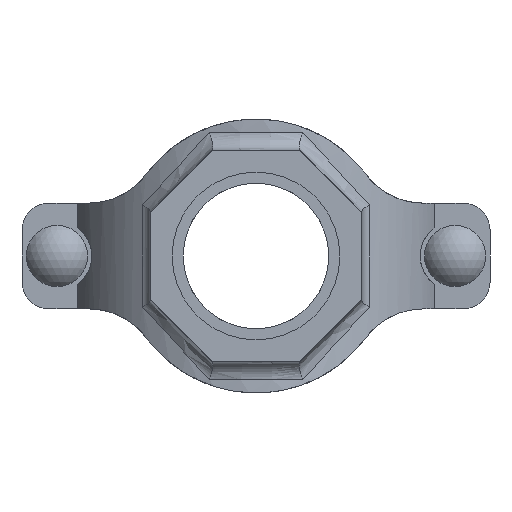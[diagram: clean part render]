
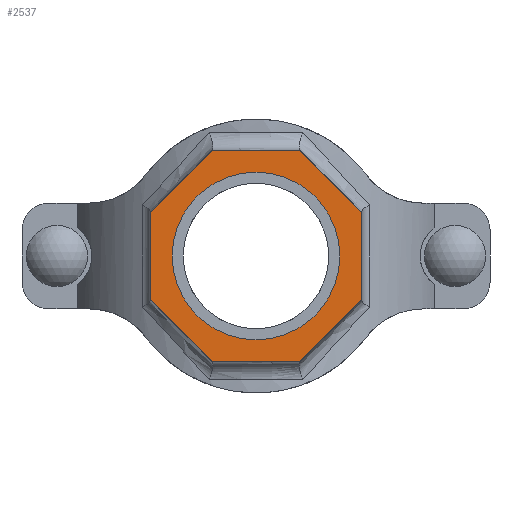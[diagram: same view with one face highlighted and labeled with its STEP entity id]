
A CAD part, front view. The second image highlights one B-rep face of the part: STEP entity #2537.
In plain terms, the highlighted planar face has unit normal (0, -1, 0) as drawn and (0, 1, 0) by its records, which use the part's own axes.
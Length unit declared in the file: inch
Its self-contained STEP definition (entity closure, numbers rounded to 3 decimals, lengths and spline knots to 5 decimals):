
#186=FACE_BOUND('',#457,.T.);
#305=FACE_OUTER_BOUND('',#456,.T.);
#456=EDGE_LOOP('',(#2128,#2129,#2130,#2131,#2132,#2133,#2134,#2135));
#457=EDGE_LOOP('',(#2136));
#594=LINE('',#4817,#780);
#597=LINE('',#4822,#783);
#599=LINE('',#4826,#785);
#601=LINE('',#4830,#787);
#637=LINE('',#5287,#823);
#639=LINE('',#5291,#825);
#641=LINE('',#5295,#827);
#643=LINE('',#5298,#829);
#780=VECTOR('',#3278,0.3937);
#783=VECTOR('',#3283,0.3937);
#785=VECTOR('',#3287,0.3937);
#787=VECTOR('',#3291,0.3937);
#823=VECTOR('',#3419,0.3937);
#825=VECTOR('',#3423,0.3937);
#827=VECTOR('',#3427,0.3937);
#829=VECTOR('',#3431,0.3937);
#919=CIRCLE('',#2802,1.1875);
#1097=VERTEX_POINT('',#4814);
#1098=VERTEX_POINT('',#4816);
#1099=VERTEX_POINT('',#4820);
#1100=VERTEX_POINT('',#4824);
#1101=VERTEX_POINT('',#4828);
#1136=VERTEX_POINT('',#5116);
#1158=VERTEX_POINT('',#5286);
#1159=VERTEX_POINT('',#5290);
#1160=VERTEX_POINT('',#5294);
#1408=EDGE_CURVE('',#1098,#1097,#594,.T.);
#1411=EDGE_CURVE('',#1097,#1099,#597,.T.);
#1413=EDGE_CURVE('',#1099,#1100,#599,.T.);
#1415=EDGE_CURVE('',#1100,#1101,#601,.T.);
#1461=EDGE_CURVE('',#1136,#1136,#919,.T.);
#1491=EDGE_CURVE('',#1158,#1098,#637,.T.);
#1493=EDGE_CURVE('',#1159,#1158,#639,.T.);
#1495=EDGE_CURVE('',#1160,#1159,#641,.T.);
#1497=EDGE_CURVE('',#1101,#1160,#643,.T.);
#2128=ORIENTED_EDGE('',*,*,#1497,.T.);
#2129=ORIENTED_EDGE('',*,*,#1495,.T.);
#2130=ORIENTED_EDGE('',*,*,#1493,.T.);
#2131=ORIENTED_EDGE('',*,*,#1491,.T.);
#2132=ORIENTED_EDGE('',*,*,#1408,.T.);
#2133=ORIENTED_EDGE('',*,*,#1411,.T.);
#2134=ORIENTED_EDGE('',*,*,#1413,.T.);
#2135=ORIENTED_EDGE('',*,*,#1415,.T.);
#2136=ORIENTED_EDGE('',*,*,#1461,.T.);
#2278=PLANE('',#2823);
#2537=ADVANCED_FACE('',(#305,#186),#2278,.T.);
#2802=AXIS2_PLACEMENT_3D('',#5117,#3369,#3370);
#2823=AXIS2_PLACEMENT_3D('',#5299,#3432,#3433);
#3278=DIRECTION('',(0.,0.,1.));
#3283=DIRECTION('',(0.707,0.,0.707));
#3287=DIRECTION('',(1.,0.,0.));
#3291=DIRECTION('',(0.707,0.,-0.707));
#3369=DIRECTION('center_axis',(0.,-1.,0.));
#3370=DIRECTION('ref_axis',(-1.,0.,0.));
#3419=DIRECTION('',(-0.707,0.,0.707));
#3423=DIRECTION('',(-1.,0.,0.));
#3427=DIRECTION('',(-0.707,0.,-0.707));
#3431=DIRECTION('',(0.,0.,-1.));
#3432=DIRECTION('center_axis',(0.,1.,0.));
#3433=DIRECTION('ref_axis',(0.,0.,1.));
#4814=CARTESIAN_POINT('',(-1.5,4.,0.62132));
#4816=CARTESIAN_POINT('',(-1.5,4.,-0.62132));
#4817=CARTESIAN_POINT('',(-1.5,4.,0.62132));
#4820=CARTESIAN_POINT('',(-0.62132,4.,1.5));
#4822=CARTESIAN_POINT('',(-0.62132,4.,1.5));
#4824=CARTESIAN_POINT('',(0.62132,4.,1.5));
#4826=CARTESIAN_POINT('',(0.62132,4.,1.5));
#4828=CARTESIAN_POINT('',(1.5,4.,0.62132));
#4830=CARTESIAN_POINT('',(1.5,4.,0.62132));
#5116=CARTESIAN_POINT('',(1.1875,4.,0.));
#5117=CARTESIAN_POINT('Origin',(0.,4.,0.));
#5286=CARTESIAN_POINT('',(-0.62132,4.,-1.5));
#5287=CARTESIAN_POINT('',(-1.5,4.,-0.62132));
#5290=CARTESIAN_POINT('',(0.62132,4.,-1.5));
#5291=CARTESIAN_POINT('',(-0.62132,4.,-1.5));
#5294=CARTESIAN_POINT('',(1.5,4.,-0.62132));
#5295=CARTESIAN_POINT('',(0.62132,4.,-1.5));
#5298=CARTESIAN_POINT('',(1.5,4.,-0.62132));
#5299=CARTESIAN_POINT('Origin',(0.,4.,0.));
